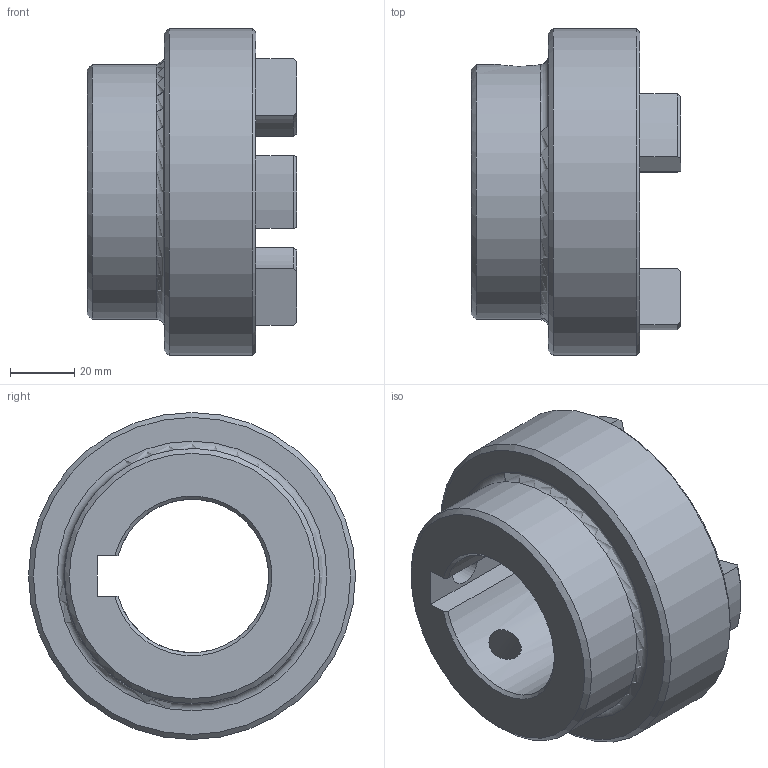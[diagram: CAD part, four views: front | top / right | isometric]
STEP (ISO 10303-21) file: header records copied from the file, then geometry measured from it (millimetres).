
FILE_DESCRIPTION (( 'STEP AP203' ), '1' );
FILE_NAME ('RC4.step', '2024-07-24T17:47:57', ( 'Adlan' ), ( '' ), 'SwSTEP 2.0', 'SolidWorks 2013', '' );
FILE_SCHEMA (( 'CONFIG_CONTROL_DESIGN' ));
Length unit declared in the file: inch
Products named in the file (1): RC4
Bounding box: 65.02 x 101.6 x 101.6 mm (x, y, z)
Volume: 207707.4 mm3; surface area: 41129.1 mm2
Topology: 1 solids, 1 shells, 71 faces, 191 edges, 121 vertices
Faces by surface type: cylinder 26, plane 20, torus 13, cone 12
Full cylindrical faces by diameter (mm): 10.716 x2, 79.248 x1, 101.6 x1
Entity records: 2521 total; most frequent: CARTESIAN_POINT 713, DIRECTION 374, ORIENTED_EDGE 350, EDGE_CURVE 175, AXIS2_PLACEMENT_3D 152, VERTEX_POINT 115, EDGE_LOOP 86, CIRCLE 80
